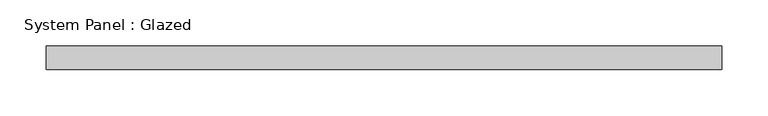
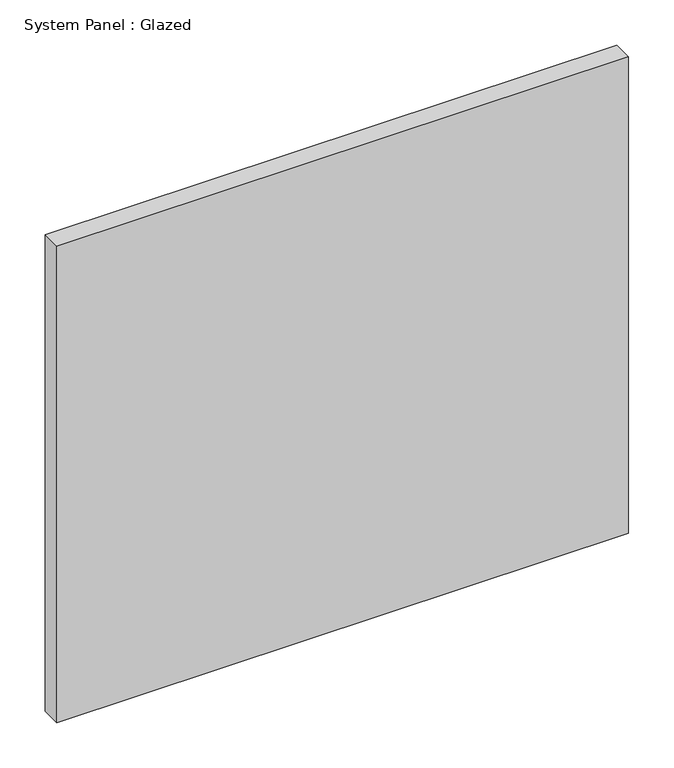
"""IFC4 building model written with IfcOpenShell, lengths in millimetres: plate geometry, System Panel : Glazed."""

from ifc_helpers import new_model, si_unit, origin, origin_with_axes, place, context, project, spatial, polyline, outline, extrude, source, transform, mapped, element, save


def system_panel_glazed_447f114c(model_context):
    return source(origin(), model_context, "Body", "SweptSolid", [
        extrude(outline(polyline([(363.0446741, 24.5), (-363.0446741, 24.5), (-363.0446741, 49.5), (363.0446741, 49.5), (363.0446741, 24.5)])), origin_with_axes(), (0.0, 0.0, 1.0), 639.6468952),
    ])


if __name__ == "__main__":
    model = new_model("IFC4")
    model_context = context("Model", 3, world=origin())
    ifc_project = project(units=[si_unit("LENGTHUNIT", "METRE", prefix="MILLI")], contexts=[model_context])
    site = spatial("IfcSite", under=ifc_project)
    building = spatial("IfcBuilding", under=site)
    placement = place(None, origin())
    system_panel_glazed_shape = system_panel_glazed_447f114c(model_context)
    element("IfcPlate", 1, ObjectType="System Panel : Glazed", at=placement, inside=building, context=model_context, shape_type="MappedRepresentation", body=[
        mapped(system_panel_glazed_shape, transform((0.0, 0.0, 0.0), x_axis=(1.0, 0.0, 0.0), y_axis=(0.0, 1.0, 0.0), z_axis=(0.0, 0.0, 1.0))),
    ])
    save(model, "model.ifc")
